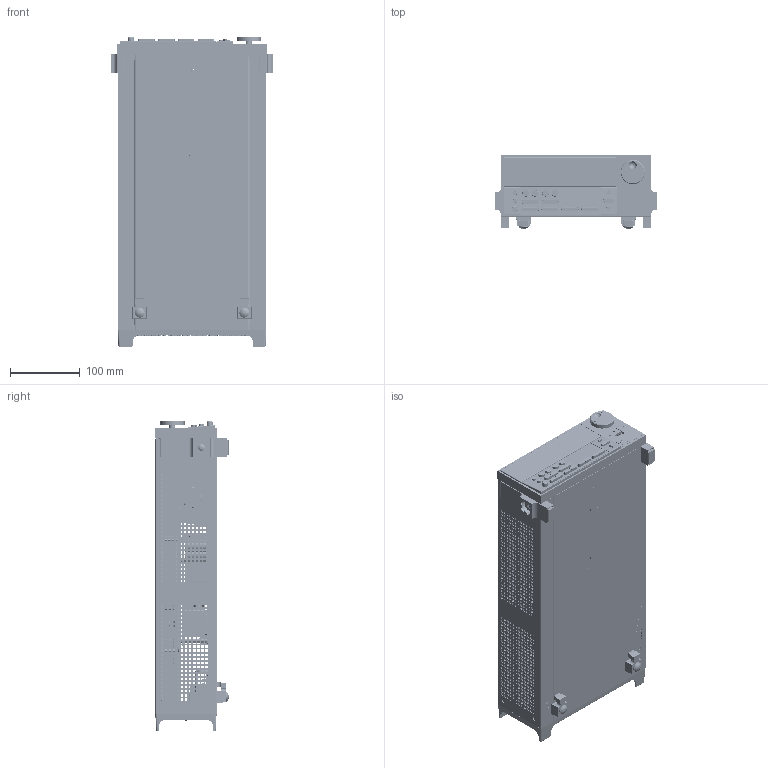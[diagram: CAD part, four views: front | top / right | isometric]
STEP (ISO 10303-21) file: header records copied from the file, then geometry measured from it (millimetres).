
FILE_DESCRIPTION((''),'2;1');
FILE_NAME('2601B_ASM','2021-01-25T12:28:45',('rrich'),(''),'CREO PARAMETRIC BY PTC INC, 2019080','CREO PARAMETRIC BY PTC INC, 2019080','');
FILE_SCHEMA(('CONFIG_CONTROL_DESIGN','SHAPE_APPEARANCE_LAYERS_GROUPS'));
Length unit declared in the file: inch
Products named in the file (113): 2602-301; 2601B-303; 2601B-304; 2601B-303_ASM; 6-32X1-4PFH; BJ-19-5; LF-11-PURCHPART; 2602-318; 4-40X1-4PFH; FN-43-WIRELESS; 4-40X1-2PPHSEM; CC-99-1-085; 1198653; ST-166-21; 3374722-SHIELD; 3374722-POLYCARB1; 3374722_ASM; 4-40X1-4PPH; 2636-142; 2636-142_ASM; CS-368-16; CS-1179-1; CS-507; CS-1150; CS-368-26; CS-368-10; CS-724-3; CS-1209; CS-288-2; CS-1032; CS-724-5; CS-889-1; CS-724-4; 2602B-140_ASM; CS-713; CA-357-2-ASSY; CS-725; CA-358-ASSY; 2602-013-BARE; CS-715-4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
Assembly tree (191 placements, depth 5):
  2601B_ASM
    2602-301
    2601B-303_ASM
      2601B-303
      2601B-304
    6-32X1-4PFH  x4
    BJ-19-5
    LF-11-PURCHPART
    2602-318
    4-40X1-4PFH  x9
    FN-43-WIRELESS
    4-40X1-2PPHSEM  x2
    CC-99-1-085  x2
    1198653
    ST-166-21  x4
    3374722_ASM
      3374722-SHIELD
      3374722-POLYCARB1  x2
    4-40X1-4PPH  x18
    2602B-140_ASM
      2636-142_ASM
        2636-142
      CS-368-16
      CS-1179-1  x2
      CS-507
      CS-1150
      CS-368-26
      CS-368-10
      CS-724-3
      CS-1209  x2
      CS-288-2
      CS-1032
      CS-724-5
      CS-889-1
      CS-724-4
    CS-713  x2
    CA-357-2-ASSY
    CS-725  x4
    CA-358-ASSY
    2602-130_ASM
      2602-013-BARE
      CS-715-4
      SW-466
      7002-323-2
    CC-67
    BA-52-NW
    2602-120_ASM
      2602-122
      CS-288-4
      CS-724-3
      CS-1197  x2
    428-319  x2
    FE-6  x2
    2601B-FRONT-PANEL_ASM
      2601A-325_ASM
        2601A-305
        2601-306
      2601-329_ASM
        2601-329
        2601-308
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Bounding box: 231.65 x 105.44 x 446.33 mm (x, y, z)
Volume: 1293071.5 mm3; surface area: 1681094.1 mm2
Topology: 210 solids, 255 shells, 27062 faces, 75848 edges, 50465 vertices
Faces by surface type: plane 22912, cylinder 3510, cone 406, torus 141, sphere 66, bspline 21, extrusion 6
Entity records: 942171 total; most frequent: CARTESIAN_POINT 141491, ORIENTED_EDGE 134910, DIRECTION 123078, EDGE_CURVE 68001, VECTOR 60762, LINE 60758, PRESENTATION_STYLE_ASSIGNMENT 50292, STYLED_ITEM 49459
